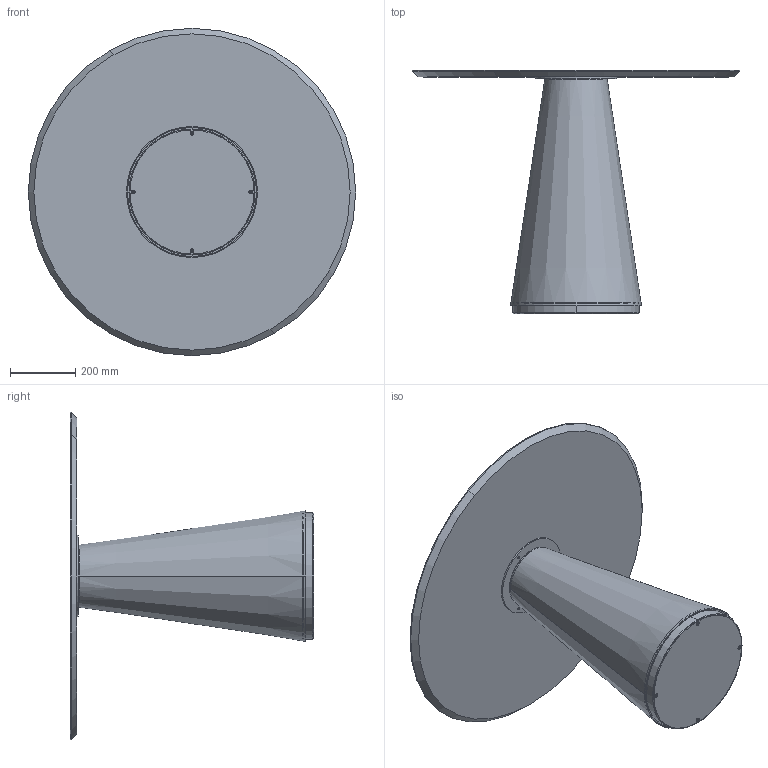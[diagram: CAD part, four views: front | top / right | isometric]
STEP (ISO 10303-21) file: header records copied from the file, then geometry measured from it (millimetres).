
FILE_DESCRIPTION (( 'STEP AP203' ), '1' );
FILE_NAME ('TE30W.STEP', '2024-08-08T07:51:42', ( '' ), ( '' ), 'SwSTEP 2.0', 'SolidWorks 2022', '' );
FILE_SCHEMA (( 'CONFIG_CONTROL_DESIGN' ));
Length unit declared in the file: millimetre
Products named in the file (8): TED000000PIA-00-TED PIASTRA SOPRA; M6xXXmm_HEX_M6x40mm HEX; W1XCMXX-00-Piani Rotondi legno_D.1000 SP.20cm; TE30W; TED000000TCONO-00-TED CONO; TED000000BAS_01-00-TED PIASTRA; Assieme BASE TED; M6xXXmm_HEX_M6x20mm HEX
Assembly tree (13 placements, depth 3):
  TE30W
    W1XCMXX-00-Piani Rotondi legno_D.1000 SP.20cm
    Assieme BASE TED
      TED000000BAS_01-00-TED PIASTRA
      TED000000PIA-00-TED PIASTRA SOPRA
      TED000000TCONO-00-TED CONO
      M6xXXmm_HEX_M6x20mm HEX  x4
      M6xXXmm_HEX_M6x40mm HEX  x4
Bounding box: 1000 x 743.5 x 1000 mm (x, y, z)
Volume: 16642722.8 mm3; surface area: 3408019.7 mm2
Topology: 14 solids, 14 shells, 376 faces, 795 edges, 436 vertices
Faces by surface type: plane 175, cylinder 111, cone 70, torus 20
Entity records: 5845 total; most frequent: DIRECTION 965, CARTESIAN_POINT 790, ORIENTED_EDGE 750, AXIS2_PLACEMENT_3D 401, EDGE_CURVE 375, VERTEX_POINT 226, EDGE_LOOP 223, CIRCLE 212
